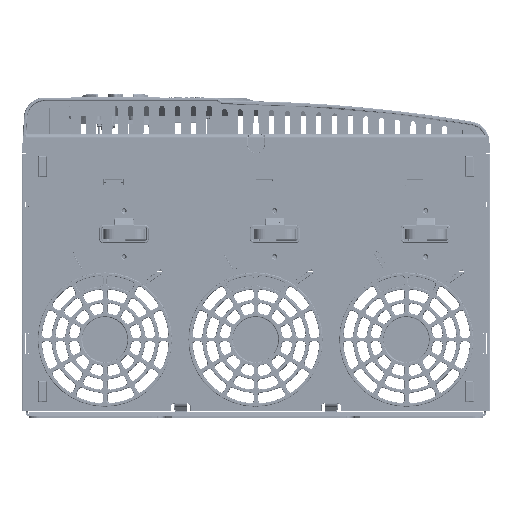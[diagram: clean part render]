
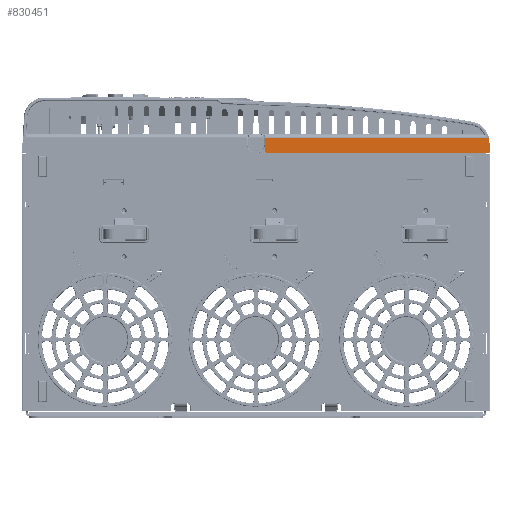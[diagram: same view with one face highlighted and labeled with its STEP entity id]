
A CAD part, front view. The second image highlights one B-rep face of the part: STEP entity #830451.
In plain terms, the highlighted planar face has unit normal (0, -1, 0).
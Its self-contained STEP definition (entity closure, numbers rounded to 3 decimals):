
#35540 = VERTEX_POINT ( 'NONE', #543116 ) ;
#66426 = ORIENTED_EDGE ( 'NONE', *, *, #584894, .T. ) ;
#77005 = EDGE_CURVE ( 'NONE', #1112238, #754553, #930923, .T. ) ;
#91453 = EDGE_CURVE ( 'NONE', #35540, #682633, #864724, .T. ) ;
#103344 = VECTOR ( 'NONE', #1142214, 1000. ) ;
#109143 = ORIENTED_EDGE ( 'NONE', *, *, #658349, .F. ) ;
#112505 = FACE_OUTER_BOUND ( 'NONE', #741164, .T. ) ;
#126686 = CARTESIAN_POINT ( 'NONE',  ( 0., -235.725, 253.653 ) ) ;
#131667 = ORIENTED_EDGE ( 'NONE', *, *, #715339, .F. ) ;
#152643 = CARTESIAN_POINT ( 'NONE',  ( 10.45, -235.725, 255.653 ) ) ;
#174687 = CARTESIAN_POINT ( 'NONE',  ( 219.961, -235.725, 267.853 ) ) ;
#207533 = DIRECTION ( 'NONE',  ( 1., 0., 0. ) ) ;
#222808 = LINE ( 'NONE', #126686, #103344 ) ;
#270455 = VECTOR ( 'NONE', #768861, 1000. ) ;
#273631 = CARTESIAN_POINT ( 'NONE',  ( 223.503, -235.725, 253.758 ) ) ;
#280663 = CARTESIAN_POINT ( 'NONE',  ( 221.506, -235.725, 253.653 ) ) ;
#286649 = VECTOR ( 'NONE', #871603, 1000. ) ;
#286728 = ORIENTED_EDGE ( 'NONE', *, *, #1036785, .T. ) ;
#313210 = VERTEX_POINT ( 'NONE', #617531 ) ;
#342965 = VERTEX_POINT ( 'NONE', #174687 ) ;
#347611 = CIRCLE ( 'NONE', #462712, 2. ) ;
#405019 = VECTOR ( 'NONE', #762366, 1000. ) ;
#455973 = CARTESIAN_POINT ( 'NONE',  ( 0., -235.725, 268.653 ) ) ;
#462712 = AXIS2_PLACEMENT_3D ( 'NONE', #152643, #525743, #891880 ) ;
#474426 = CARTESIAN_POINT ( 'NONE',  ( 222.757, -235.725, 268. ) ) ;
#505606 = LINE ( 'NONE', #1046029, #286649 ) ;
#512851 = VERTEX_POINT ( 'NONE', #280663 ) ;
#525743 = DIRECTION ( 'NONE',  ( 0., 1., 0. ) ) ;
#526698 = LINE ( 'NONE', #273631, #1175798 ) ;
#543116 = CARTESIAN_POINT ( 'NONE',  ( 8.45, -235.725, 255.653 ) ) ;
#584894 = EDGE_CURVE ( 'NONE', #754553, #342965, #505606, .T. ) ;
#595510 = AXIS2_PLACEMENT_3D ( 'NONE', #455973, #1110414, #738074 ) ;
#617531 = CARTESIAN_POINT ( 'NONE',  ( 10.45, -235.725, 253.653 ) ) ;
#640347 = DIRECTION ( 'NONE',  ( 0.999, 0., 0.052 ) ) ;
#658349 = EDGE_CURVE ( 'NONE', #313210, #35540, #347611, .T. ) ;
#675944 = CARTESIAN_POINT ( 'NONE',  ( 222.757, -235.725, 268. ) ) ;
#682633 = VERTEX_POINT ( 'NONE', #1082218 ) ;
#690465 = VECTOR ( 'NONE', #207533, 1000. ) ;
#715339 = EDGE_CURVE ( 'NONE', #682633, #342965, #1132911, .T. ) ;
#738074 = DIRECTION ( 'NONE',  ( 0., 0., -1. ) ) ;
#741164 = EDGE_LOOP ( 'NONE', ( #131667, #1107953, #109143, #286728, #949154, #904262, #66426 ) ) ;
#754553 = VERTEX_POINT ( 'NONE', #675944 ) ;
#762366 = DIRECTION ( 'NONE',  ( -0.052, 0., 0.999 ) ) ;
#768861 = DIRECTION ( 'NONE',  ( 0., 0., 1. ) ) ;
#782284 = EDGE_CURVE ( 'NONE', #512851, #1112238, #526698, .T. ) ;
#815674 = CARTESIAN_POINT ( 'NONE',  ( 223.503, -235.725, 253.758 ) ) ;
#830451 = ADVANCED_FACE ( 'NONE', ( #112505 ), #1020316, .F. ) ;
#864724 = LINE ( 'NONE', #1123596, #270455 ) ;
#871603 = DIRECTION ( 'NONE',  ( -0.999, 0., -0.052 ) ) ;
#891880 = DIRECTION ( 'NONE',  ( 0., 0., -1. ) ) ;
#904262 = ORIENTED_EDGE ( 'NONE', *, *, #77005, .T. ) ;
#930923 = LINE ( 'NONE', #474426, #405019 ) ;
#949154 = ORIENTED_EDGE ( 'NONE', *, *, #782284, .T. ) ;
#1020316 = PLANE ( 'NONE',  #595510 ) ;
#1031002 = CARTESIAN_POINT ( 'NONE',  ( 219.961, -235.725, 267.853 ) ) ;
#1036785 = EDGE_CURVE ( 'NONE', #313210, #512851, #222808, .T. ) ;
#1046029 = CARTESIAN_POINT ( 'NONE',  ( 219.961, -235.725, 267.853 ) ) ;
#1082218 = CARTESIAN_POINT ( 'NONE',  ( 8.45, -235.725, 267.853 ) ) ;
#1107953 = ORIENTED_EDGE ( 'NONE', *, *, #91453, .F. ) ;
#1110414 = DIRECTION ( 'NONE',  ( 0., 1., 0. ) ) ;
#1112238 = VERTEX_POINT ( 'NONE', #815674 ) ;
#1123596 = CARTESIAN_POINT ( 'NONE',  ( 8.45, -235.725, 280.681 ) ) ;
#1132911 = LINE ( 'NONE', #1031002, #690465 ) ;
#1142214 = DIRECTION ( 'NONE',  ( 1., 0., 0. ) ) ;
#1175798 = VECTOR ( 'NONE', #640347, 1000. ) ;
